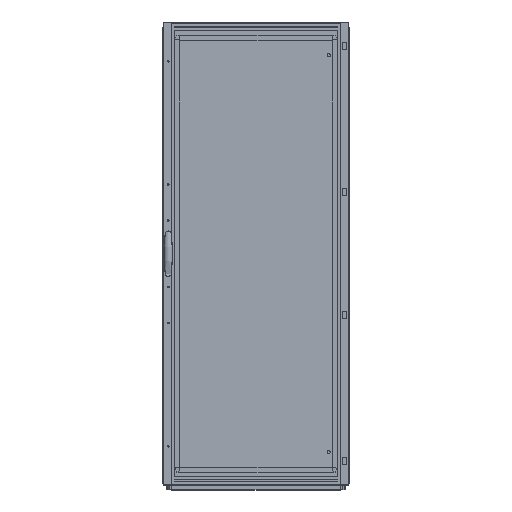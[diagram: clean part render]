
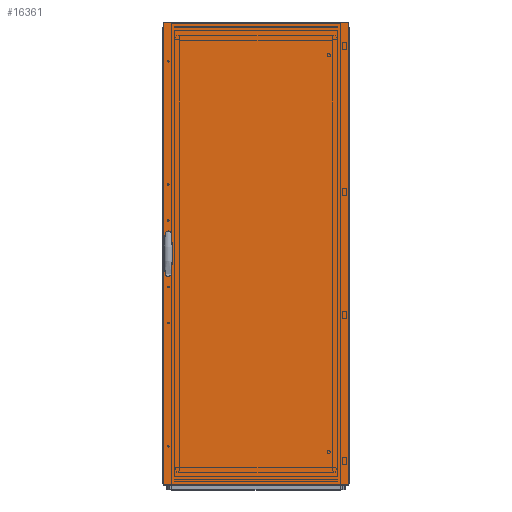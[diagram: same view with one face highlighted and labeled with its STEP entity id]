
A CAD part, top view. The second image highlights one B-rep face of the part: STEP entity #16361.
In plain terms, the highlighted planar face has unit normal (0, 0, 1) as drawn and (0, 0, -1) by its records, which use the part's own axes.
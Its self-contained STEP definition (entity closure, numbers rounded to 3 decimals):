
#181=CIRCLE('',#17469,2.6);
#182=CIRCLE('',#17470,2.6);
#2492=ORIENTED_EDGE('',*,*,#6123,.T.);
#2493=ORIENTED_EDGE('',*,*,#6124,.T.);
#2494=ORIENTED_EDGE('',*,*,#6125,.T.);
#2495=ORIENTED_EDGE('',*,*,#6126,.T.);
#2496=ORIENTED_EDGE('',*,*,#6127,.T.);
#2497=ORIENTED_EDGE('',*,*,#6128,.T.);
#2498=ORIENTED_EDGE('',*,*,#6129,.T.);
#2499=ORIENTED_EDGE('',*,*,#6130,.T.);
#2500=ORIENTED_EDGE('',*,*,#6131,.T.);
#2501=ORIENTED_EDGE('',*,*,#6132,.T.);
#2502=ORIENTED_EDGE('',*,*,#6133,.T.);
#2503=ORIENTED_EDGE('',*,*,#6134,.T.);
#2504=ORIENTED_EDGE('',*,*,#6135,.T.);
#2505=ORIENTED_EDGE('',*,*,#6136,.T.);
#2506=ORIENTED_EDGE('',*,*,#6137,.T.);
#2507=ORIENTED_EDGE('',*,*,#6138,.T.);
#2508=ORIENTED_EDGE('',*,*,#6139,.T.);
#2509=ORIENTED_EDGE('',*,*,#6140,.F.);
#2510=ORIENTED_EDGE('',*,*,#6141,.F.);
#2511=ORIENTED_EDGE('',*,*,#6142,.T.);
#2512=ORIENTED_EDGE('',*,*,#6143,.T.);
#2513=ORIENTED_EDGE('',*,*,#6144,.T.);
#6123=EDGE_CURVE('',#8100,#8101,#9950,.T.);
#6124=EDGE_CURVE('',#8101,#8102,#9951,.T.);
#6125=EDGE_CURVE('',#8102,#8103,#9952,.T.);
#6126=EDGE_CURVE('',#8103,#8104,#9953,.T.);
#6127=EDGE_CURVE('',#8104,#8105,#9954,.T.);
#6128=EDGE_CURVE('',#8105,#8106,#9955,.T.);
#6129=EDGE_CURVE('',#8106,#8107,#9956,.T.);
#6130=EDGE_CURVE('',#8107,#8108,#9957,.T.);
#6131=EDGE_CURVE('',#8108,#8109,#9958,.T.);
#6132=EDGE_CURVE('',#8109,#8110,#9959,.T.);
#6133=EDGE_CURVE('',#8110,#8111,#9960,.T.);
#6134=EDGE_CURVE('',#8111,#8112,#9961,.T.);
#6135=EDGE_CURVE('',#8112,#8113,#9962,.T.);
#6136=EDGE_CURVE('',#8113,#8114,#9963,.T.);
#6137=EDGE_CURVE('',#8114,#8115,#9964,.T.);
#6138=EDGE_CURVE('',#8115,#8100,#9965,.T.);
#6139=EDGE_CURVE('',#8116,#8117,#9966,.T.);
#6140=EDGE_CURVE('',#8118,#8117,#9967,.T.);
#6141=EDGE_CURVE('',#8119,#8118,#9968,.T.);
#6142=EDGE_CURVE('',#8119,#8116,#9969,.T.);
#6143=EDGE_CURVE('',#8120,#8120,#181,.T.);
#6144=EDGE_CURVE('',#8121,#8121,#182,.T.);
#8100=VERTEX_POINT('',#24552);
#8101=VERTEX_POINT('',#24553);
#8102=VERTEX_POINT('',#24555);
#8103=VERTEX_POINT('',#24557);
#8104=VERTEX_POINT('',#24559);
#8105=VERTEX_POINT('',#24561);
#8106=VERTEX_POINT('',#24563);
#8107=VERTEX_POINT('',#24565);
#8108=VERTEX_POINT('',#24567);
#8109=VERTEX_POINT('',#24569);
#8110=VERTEX_POINT('',#24571);
#8111=VERTEX_POINT('',#24573);
#8112=VERTEX_POINT('',#24575);
#8113=VERTEX_POINT('',#24577);
#8114=VERTEX_POINT('',#24579);
#8115=VERTEX_POINT('',#24581);
#8116=VERTEX_POINT('',#24584);
#8117=VERTEX_POINT('',#24585);
#8118=VERTEX_POINT('',#24587);
#8119=VERTEX_POINT('',#24589);
#8120=VERTEX_POINT('',#24592);
#8121=VERTEX_POINT('',#24594);
#9950=LINE('',#24551,#12050);
#9951=LINE('',#24554,#12051);
#9952=LINE('',#24556,#12052);
#9953=LINE('',#24558,#12053);
#9954=LINE('',#24560,#12054);
#9955=LINE('',#24562,#12055);
#9956=LINE('',#24564,#12056);
#9957=LINE('',#24566,#12057);
#9958=LINE('',#24568,#12058);
#9959=LINE('',#24570,#12059);
#9960=LINE('',#24572,#12060);
#9961=LINE('',#24574,#12061);
#9962=LINE('',#24576,#12062);
#9963=LINE('',#24578,#12063);
#9964=LINE('',#24580,#12064);
#9965=LINE('',#24582,#12065);
#9966=LINE('',#24583,#12066);
#9967=LINE('',#24586,#12067);
#9968=LINE('',#24588,#12068);
#9969=LINE('',#24590,#12069);
#12050=VECTOR('',#19990,1000.);
#12051=VECTOR('',#19991,1000.);
#12052=VECTOR('',#19992,1000.);
#12053=VECTOR('',#19993,1000.);
#12054=VECTOR('',#19994,1000.);
#12055=VECTOR('',#19995,1000.);
#12056=VECTOR('',#19996,1000.);
#12057=VECTOR('',#19997,1000.);
#12058=VECTOR('',#19998,1000.);
#12059=VECTOR('',#19999,1000.);
#12060=VECTOR('',#20000,1000.);
#12061=VECTOR('',#20001,1000.);
#12062=VECTOR('',#20002,1000.);
#12063=VECTOR('',#20003,1000.);
#12064=VECTOR('',#20004,1000.);
#12065=VECTOR('',#20005,1000.);
#12066=VECTOR('',#20006,1000.);
#12067=VECTOR('',#20007,1000.);
#12068=VECTOR('',#20008,1000.);
#12069=VECTOR('',#20009,1000.);
#13619=EDGE_LOOP('',(#2492,#2493,#2494,#2495,#2496,#2497,#2498,#2499,#2500,
#2501,#2502,#2503,#2504,#2505,#2506,#2507));
#13620=EDGE_LOOP('',(#2508,#2509,#2510,#2511));
#13621=EDGE_LOOP('',(#2512));
#13622=EDGE_LOOP('',(#2513));
#14639=FACE_BOUND('',#13619,.T.);
#14640=FACE_BOUND('',#13620,.T.);
#14641=FACE_BOUND('',#13621,.T.);
#14642=FACE_BOUND('',#13622,.T.);
#15567=PLANE('',#17468);
#16361=ADVANCED_FACE('',(#14639,#14640,#14641,#14642),#15567,.F.);
#17468=AXIS2_PLACEMENT_3D('',#24550,#19988,#19989);
#17469=AXIS2_PLACEMENT_3D('',#24591,#20010,#20011);
#17470=AXIS2_PLACEMENT_3D('',#24593,#20012,#20013);
#19988=DIRECTION('',(0.,0.,1.));
#19989=DIRECTION('',(1.,0.,0.));
#19990=DIRECTION('',(0.,-1.,0.));
#19991=DIRECTION('',(0.342,-0.94,0.));
#19992=DIRECTION('',(1.,0.,0.));
#19993=DIRECTION('',(0.,1.,0.));
#19994=DIRECTION('',(1.,0.,0.));
#19995=DIRECTION('',(0.,-1.,0.));
#19996=DIRECTION('',(1.,0.,0.));
#19997=DIRECTION('',(0.342,0.94,0.));
#19998=DIRECTION('',(0.,1.,0.));
#19999=DIRECTION('',(-0.342,0.94,0.));
#20000=DIRECTION('',(-1.,0.,0.));
#20001=DIRECTION('',(0.,-1.,0.));
#20002=DIRECTION('',(-1.,0.,0.));
#20003=DIRECTION('',(0.,1.,0.));
#20004=DIRECTION('',(-1.,0.,0.));
#20005=DIRECTION('',(-0.342,-0.94,0.));
#20006=DIRECTION('',(-1.,0.,0.));
#20007=DIRECTION('',(0.,-1.,0.));
#20008=DIRECTION('',(-1.,0.,0.));
#20009=DIRECTION('',(0.,-1.,0.));
#20010=DIRECTION('',(0.,0.,1.));
#20011=DIRECTION('',(1.,0.,0.));
#20012=DIRECTION('',(0.,0.,1.));
#20013=DIRECTION('',(1.,0.,0.));
#24550=CARTESIAN_POINT('',(396.5,1982.,-16.8));
#24551=CARTESIAN_POINT('',(362.95,1056.256,-16.8));
#24552=CARTESIAN_POINT('',(362.95,1056.256,-16.8));
#24553=CARTESIAN_POINT('',(362.95,925.744,-16.8));
#24554=CARTESIAN_POINT('',(362.95,925.744,-16.8));
#24555=CARTESIAN_POINT('',(364.95,920.25,-16.8));
#24556=CARTESIAN_POINT('',(364.95,920.25,-16.8));
#24557=CARTESIAN_POINT('',(370.2,920.25,-16.8));
#24558=CARTESIAN_POINT('',(370.2,920.25,-16.8));
#24559=CARTESIAN_POINT('',(370.2,928.,-16.8));
#24560=CARTESIAN_POINT('',(370.2,928.,-16.8));
#24561=CARTESIAN_POINT('',(381.2,928.,-16.8));
#24562=CARTESIAN_POINT('',(381.2,928.,-16.8));
#24563=CARTESIAN_POINT('',(381.2,920.25,-16.8));
#24564=CARTESIAN_POINT('',(381.2,920.25,-16.8));
#24565=CARTESIAN_POINT('',(386.45,920.25,-16.8));
#24566=CARTESIAN_POINT('',(386.45,920.25,-16.8));
#24567=CARTESIAN_POINT('',(388.45,925.744,-16.8));
#24568=CARTESIAN_POINT('',(388.45,925.744,-16.8));
#24569=CARTESIAN_POINT('',(388.45,1056.256,-16.8));
#24570=CARTESIAN_POINT('',(388.45,1056.256,-16.8));
#24571=CARTESIAN_POINT('',(386.45,1061.75,-16.8));
#24572=CARTESIAN_POINT('',(386.45,1061.75,-16.8));
#24573=CARTESIAN_POINT('',(381.2,1061.75,-16.8));
#24574=CARTESIAN_POINT('',(381.2,1061.75,-16.8));
#24575=CARTESIAN_POINT('',(381.2,1054.,-16.8));
#24576=CARTESIAN_POINT('',(381.2,1054.,-16.8));
#24577=CARTESIAN_POINT('',(370.2,1054.,-16.8));
#24578=CARTESIAN_POINT('',(370.2,1054.,-16.8));
#24579=CARTESIAN_POINT('',(370.2,1061.75,-16.8));
#24580=CARTESIAN_POINT('',(370.2,1061.75,-16.8));
#24581=CARTESIAN_POINT('',(364.95,1061.75,-16.8));
#24582=CARTESIAN_POINT('',(364.95,1061.75,-16.8));
#24583=CARTESIAN_POINT('',(396.5,0.,-16.8));
#24584=CARTESIAN_POINT('',(396.5,0.,-16.8));
#24585=CARTESIAN_POINT('',(-396.5,0.,-16.8));
#24586=CARTESIAN_POINT('',(-396.5,1982.,-16.8));
#24587=CARTESIAN_POINT('',(-396.5,1982.,-16.8));
#24588=CARTESIAN_POINT('',(396.5,1982.,-16.8));
#24589=CARTESIAN_POINT('',(396.5,1982.,-16.8));
#24590=CARTESIAN_POINT('',(396.5,1982.,-16.8));
#24591=CARTESIAN_POINT('',(375.7,1061.,-16.8));
#24592=CARTESIAN_POINT('',(378.3,1061.,-16.8));
#24593=CARTESIAN_POINT('',(375.7,921.,-16.8));
#24594=CARTESIAN_POINT('',(378.3,921.,-16.8));
